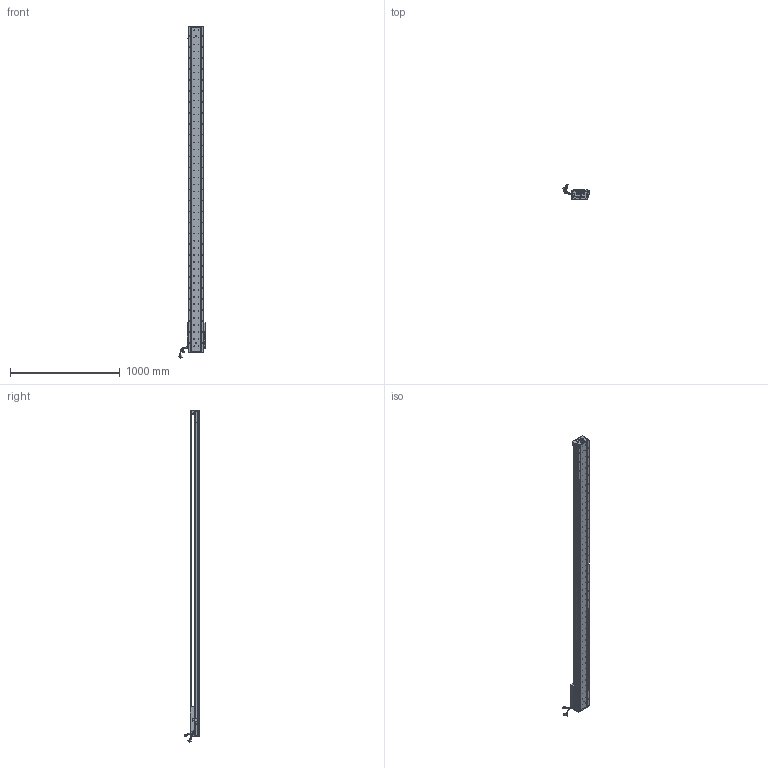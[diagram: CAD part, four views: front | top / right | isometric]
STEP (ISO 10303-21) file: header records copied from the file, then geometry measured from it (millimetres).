
FILE_DESCRIPTION (( 'STEP AP203' ), '1' );
FILE_NAME ('Z3-RY140D-1-L500-B-K.SLDASM_2650.step', '2021-05-17T08:06:00', ( '盈信电脑' ), ( '东莞市道滘镇水果街19号' ), 'SwSTEP 2.0', 'SolidWorks 2016', '' );
FILE_SCHEMA (( 'CONFIG_CONTROL_DESIGN' ));
Length unit declared in the file: millimetre
Products named in the file (36): 140雄赽晤鎢ん堤盄; SCREW-M1.6-1; 榋妏寠巭燃_暯_M2_2; Z3-RY140圉猾敕臏賑輸(21遴); Z-RY140感应器672光电感应片; 覜茼ん672; LABEL; Z-RY140詩湍奻揤裔; 140-Z-臏賑輸盄裔(21遴); PSLH080_PSLF2; LABEL-Part-1; SCREW-M1.7-1; SCALE; SEAL; 140蚥薯蝶輸; SCALE-Part-2; HARNESS; 080黍杅芛假蚾釱21遴; HARNESS-Part-1; SCREW-M1.6-2; SCREW-M1.6-3; Z3-RY140-L500詩湍100mm遵_2650; SHIELDPLATE; Z3-RY140-L500直线电机模组底座_2650; SEAL-Part-1; PBU_SHEET; SCREW-M1.7; SCALE-Part-1; SCREW-M1.6; HARNESS-Part-2; COVER; Z-RY140詩湍狟揤裔; Z3-RY140D-1-L500-B-K.SLDASM_2650; Z-140詩湍傷裔啣; COVER-Part-1; HOLDER0
Assembly tree (41 placements, depth 4):
  Z3-RY140D-1-L500-B-K.SLDASM_2650
    Z3-RY140-L500直线电机模组底座_2650
    Z-RY140感应器672光电感应片
    Z3-RY140圉猾敕臏賑輸(21遴)
    覜茼ん672  x3
    Z3-RY140-L500詩湍100mm遵_2650
    PSLH080_PSLF2
      SCALE
        SCALE-Part-1
        SCALE-Part-2
      HARNESS
        HARNESS-Part-1
        HARNESS-Part-2
      LABEL
        LABEL-Part-1
      COVER
        COVER-Part-1
      SEAL
        SEAL-Part-1
      榋妏寠巭燃_暯_M2_2
      SHIELDPLATE
      SCREW-M1.7
      SCREW-M1.7-1
      PBU_SHEET
      SCREW-M1.6
      SCREW-M1.6-1
      SCREW-M1.6-2
      SCREW-M1.6-3
      HOLDER0
    080黍杅芛假蚾釱21遴
    140-Z-臏賑輸盄裔(21遴)
    Z-140詩湍傷裔啣  x2
    Z-RY140詩湍狟揤裔  x2
    Z-RY140詩湍奻揤裔  x2
    140蚥薯蝶輸  x2
    140雄赽晤鎢ん堤盄
Bounding box: 239.79 x 143.88 x 3025.87 mm (x, y, z)
Volume: 9569524.8 mm3; surface area: 2494544.2 mm2
Topology: 36 solids, 36 shells, 4352 faces, 11889 edges, 7530 vertices
Faces by surface type: cylinder 2394, plane 1410, cone 426, torus 69, bspline 53
Entity records: 139473 total; most frequent: CARTESIAN_POINT 39883, ORIENTED_EDGE 20650, DIRECTION 18973, EDGE_CURVE 10325, AXIS2_PLACEMENT_3D 7068, VERTEX_POINT 6698, LINE 4837, VECTOR 4837
